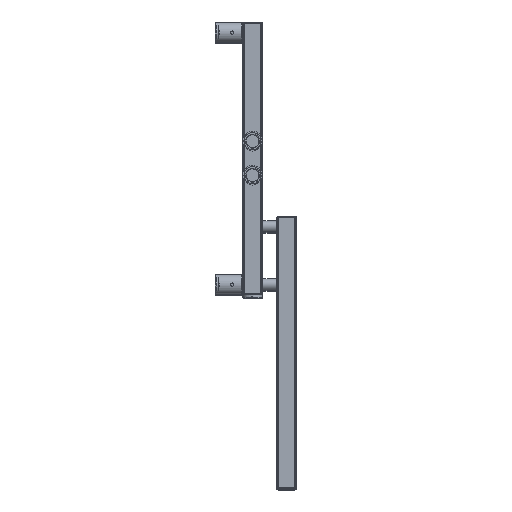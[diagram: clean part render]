
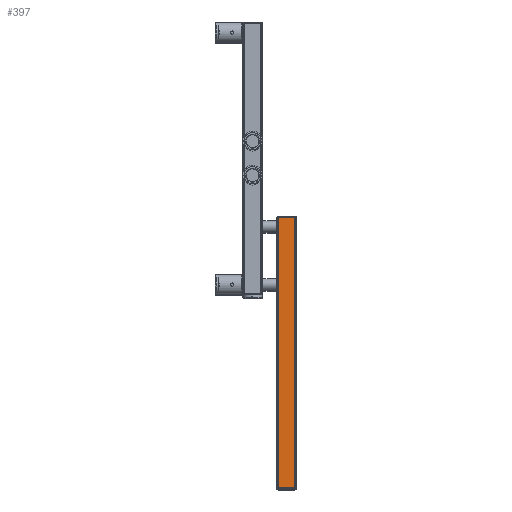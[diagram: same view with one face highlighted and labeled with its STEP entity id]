
A CAD part, top view. The second image highlights one B-rep face of the part: STEP entity #397.
In plain terms, the highlighted planar face has unit normal (0, 0, 1) as drawn and (0, -1, 0) by its records, which use the part's own axes.
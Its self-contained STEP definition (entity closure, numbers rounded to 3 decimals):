
#397 = ADVANCED_FACE( '', ( #860 ), #861, .T. );
#860 = FACE_OUTER_BOUND( '', #1509, .T. );
#861 = PLANE( '', #1510 );
#1509 = EDGE_LOOP( '', ( #2377, #2378, #2379, #2380 ) );
#1510 = AXIS2_PLACEMENT_3D( '', #2381, #2382, #2383 );
#2377 = ORIENTED_EDGE( '', *, *, #3424, .T. );
#2378 = ORIENTED_EDGE( '', *, *, #3605, .T. );
#2379 = ORIENTED_EDGE( '', *, *, #3585, .F. );
#2380 = ORIENTED_EDGE( '', *, *, #3606, .T. );
#2381 = CARTESIAN_POINT( '', ( 15., -15., 400. ) );
#2382 = DIRECTION( '', ( 0., -1., 0. ) );
#2383 = DIRECTION( '', ( 1., 0., 0. ) );
#3424 = EDGE_CURVE( '', #3978, #3991, #3993, .T. );
#3585 = EDGE_CURVE( '', #4270, #4271, #4272, .T. );
#3605 = EDGE_CURVE( '', #3991, #4271, #4306, .T. );
#3606 = EDGE_CURVE( '', #4270, #3978, #4307, .F. );
#3978 = VERTEX_POINT( '', #4831 );
#3991 = VERTEX_POINT( '', #4847 );
#3993 = LINE( '', #4849, #4850 );
#4270 = VERTEX_POINT( '', #5329 );
#4271 = VERTEX_POINT( '', #5330 );
#4272 = LINE( '', #5331, #5332 );
#4306 = LINE( '', #5376, #5377 );
#4307 = LINE( '', #5378, #5379 );
#4831 = CARTESIAN_POINT( '', ( 12., -15., 400. ) );
#4847 = CARTESIAN_POINT( '', ( -12., -15., 400. ) );
#4849 = CARTESIAN_POINT( '', ( 15., -15., 400. ) );
#4850 = VECTOR( '', #5955, 1000. );
#5329 = CARTESIAN_POINT( '', ( 12., -15., 0. ) );
#5330 = CARTESIAN_POINT( '', ( -12., -15., 0. ) );
#5331 = CARTESIAN_POINT( '', ( 15., -15., 0. ) );
#5332 = VECTOR( '', #6198, 1000. );
#5376 = CARTESIAN_POINT( '', ( -12., -15., 400. ) );
#5377 = VECTOR( '', #6230, 1000. );
#5378 = CARTESIAN_POINT( '', ( 12., -15., 400. ) );
#5379 = VECTOR( '', #6231, 1000. );
#5955 = DIRECTION( '', ( -1., 0., 0. ) );
#6198 = DIRECTION( '', ( -1., 0., 0. ) );
#6230 = DIRECTION( '', ( 0., 0., -1. ) );
#6231 = DIRECTION( '', ( 0., 0., -1. ) );
